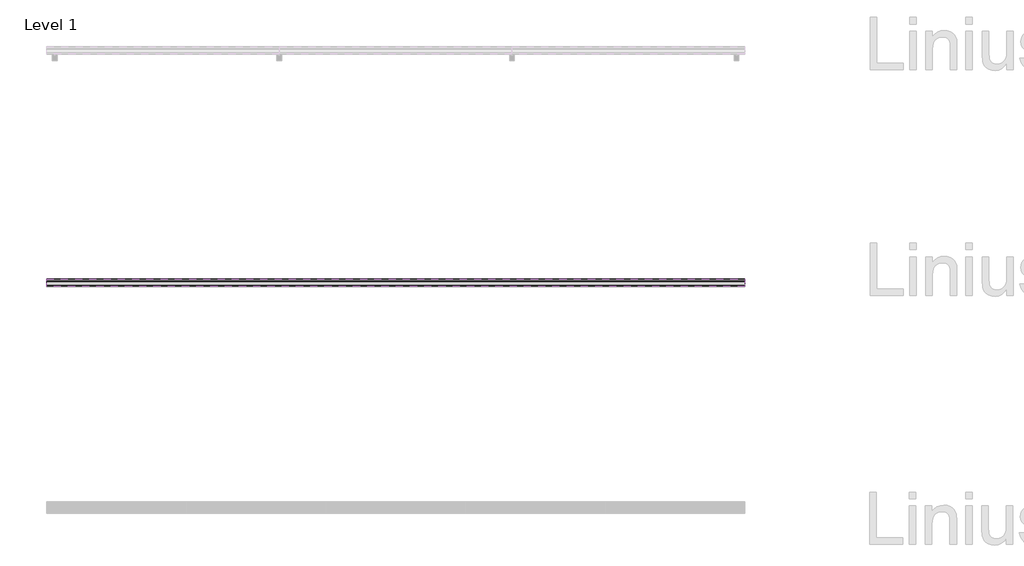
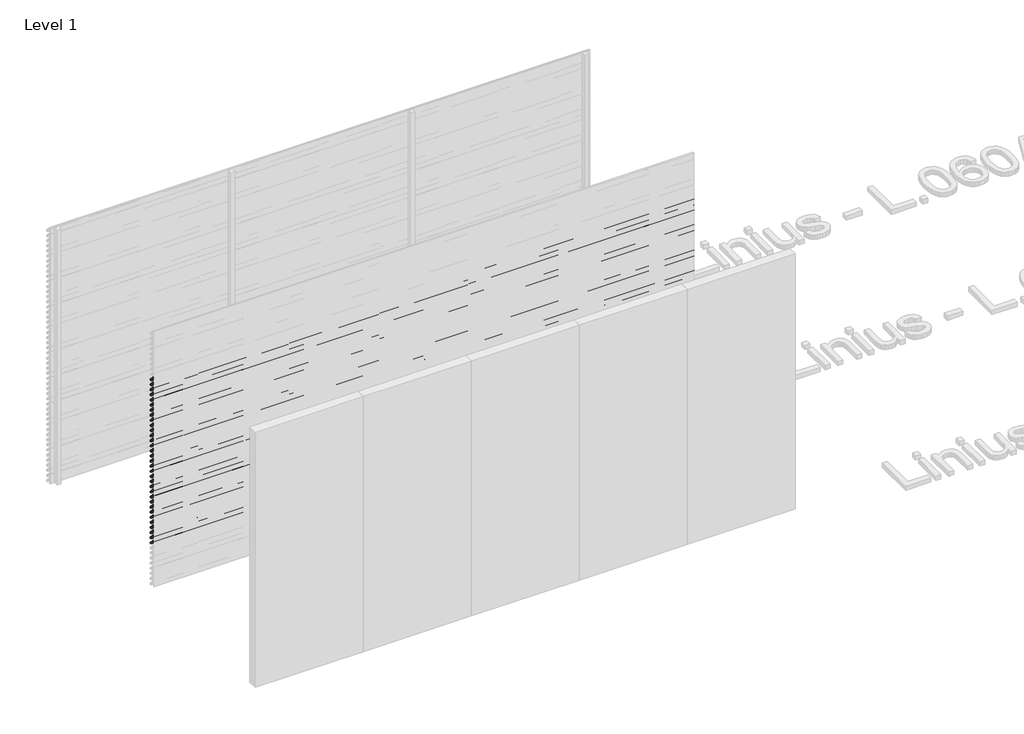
# One storey, part 90 of 153: 33 proxies.
"""IFC4 building model written with IfcOpenShell, lengths in millimetres."""

from ifc_helpers import new_model, si_unit, point, frame, frame_2d, origin, place, context, project, spatial, polyline, circle_curve, trimmed, segment, composite_curve, outline, extrude, element, save

model = new_model("IFC4")

# Units and contexts
model_context = context("Model", 3, world=origin())
ifc_project = project(units=[si_unit("LENGTHUNIT", "METRE", prefix="MILLI")], contexts=[model_context])

# Site, building, storey
site = spatial("IfcSite", under=ifc_project)
building = spatial("IfcBuilding", under=site)
storey = spatial("IfcBuildingStorey", under=building, Name="Level 1", Elevation=0.0)

# Proxies
placement = place(None, origin())
element("IfcBuildingElementProxy", 1, Name="Wall Sweeps", at=placement, inside=storey, context=model_context, shape_type="SweptSolid", body=[
    extrude(outline(composite_curve([segment(polyline([(34485.0540136, 2460.0), (34499.874191, 2458.7034025), (34549.0540136, 2405.0102749), (34549.0540136, 2393.6108187)]), True, "CONTINUOUS"), segment(trimmed(circle_curve(frame_2d((34545.7883652, 2393.897153)), 3.2781774), [point((34549.0540136, 2393.6108187))], [point((34546.4639442, 2390.6893438))], False, "CARTESIAN"), True, "CONTINUOUS"), segment(polyline([(34546.4639442, 2390.6893438), (34534.1895723, 2391.6282758), (34485.0540136, 2445.2730773), (34485.0540136, 2460.0)]), True, "CONTINUOUS")], self_intersect=False), holes=[composite_curve([segment(polyline([(34499.1621773, 2457.2599659), (34486.5540136, 2458.3630372), (34486.5540136, 2445.856213), (34534.8952036, 2393.0786805), (34546.3312542, 2392.2038762)]), True, "CONTINUOUS"), segment(trimmed(circle_curve(frame_2d((34545.7883652, 2393.897153)), 1.7781774), [point((34546.3312542, 2392.2038762))], [point((34547.5540136, 2393.6864389))], True, "CARTESIAN"), True, "CONTINUOUS"), segment(polyline([(34547.5540136, 2393.6864389), (34547.5540136, 2404.4271392), (34499.1621773, 2457.2599659)]), True, "CONTINUOUS")], self_intersect=False)]), frame((44966.6208097, 0.0, 0.0), z_axis=(1.0, 0.0, 0.0), x_axis=(0.0, 1.0, 0.0)), (0.0, 0.0, 1.0), 6000.0),
])
element("IfcBuildingElementProxy", 2, Name="Wall Sweeps", at=placement, inside=storey, context=model_context, shape_type="SweptSolid", body=[
    extrude(outline(composite_curve([segment(polyline([(34485.0540136, 2400.0), (34499.874191, 2398.7034025), (34549.0540136, 2345.0102749), (34549.0540136, 2333.6108187)]), True, "CONTINUOUS"), segment(trimmed(circle_curve(frame_2d((34545.7883652, 2333.897153)), 3.2781774), [point((34549.0540136, 2333.6108187))], [point((34546.4639442, 2330.6893438))], False, "CARTESIAN"), True, "CONTINUOUS"), segment(polyline([(34546.4639442, 2330.6893438), (34534.1895723, 2331.6282758), (34485.0540136, 2385.2730773), (34485.0540136, 2400.0)]), True, "CONTINUOUS")], self_intersect=False), holes=[composite_curve([segment(polyline([(34499.1621773, 2397.2599659), (34486.5540136, 2398.3630372), (34486.5540136, 2385.856213), (34534.8952036, 2333.0786805), (34546.3312542, 2332.2038762)]), True, "CONTINUOUS"), segment(trimmed(circle_curve(frame_2d((34545.7883652, 2333.897153)), 1.7781774), [point((34546.3312542, 2332.2038762))], [point((34547.5540136, 2333.6864389))], True, "CARTESIAN"), True, "CONTINUOUS"), segment(polyline([(34547.5540136, 2333.6864389), (34547.5540136, 2344.4271392), (34499.1621773, 2397.2599659)]), True, "CONTINUOUS")], self_intersect=False)]), frame((44966.6208097, 0.0, 0.0), z_axis=(1.0, 0.0, 0.0), x_axis=(0.0, 1.0, 0.0)), (0.0, 0.0, 1.0), 6000.0),
])
element("IfcBuildingElementProxy", 3, Name="Wall Sweeps", at=placement, inside=storey, context=model_context, shape_type="SweptSolid", body=[
    extrude(outline(composite_curve([segment(polyline([(34485.0540136, 2340.0), (34499.874191, 2338.7034025), (34549.0540136, 2285.0102749), (34549.0540136, 2273.6108187)]), True, "CONTINUOUS"), segment(trimmed(circle_curve(frame_2d((34545.7883652, 2273.897153)), 3.2781774), [point((34549.0540136, 2273.6108187))], [point((34546.4639442, 2270.6893438))], False, "CARTESIAN"), True, "CONTINUOUS"), segment(polyline([(34546.4639442, 2270.6893438), (34534.1895723, 2271.6282758), (34485.0540136, 2325.2730773), (34485.0540136, 2340.0)]), True, "CONTINUOUS")], self_intersect=False), holes=[composite_curve([segment(polyline([(34499.1621773, 2337.2599659), (34486.5540136, 2338.3630372), (34486.5540136, 2325.856213), (34534.8952036, 2273.0786805), (34546.3312542, 2272.2038762)]), True, "CONTINUOUS"), segment(trimmed(circle_curve(frame_2d((34545.7883652, 2273.897153)), 1.7781774), [point((34546.3312542, 2272.2038762))], [point((34547.5540136, 2273.6864389))], True, "CARTESIAN"), True, "CONTINUOUS"), segment(polyline([(34547.5540136, 2273.6864389), (34547.5540136, 2284.4271392), (34499.1621773, 2337.2599659)]), True, "CONTINUOUS")], self_intersect=False)]), frame((44966.6208097, 0.0, 0.0), z_axis=(1.0, 0.0, 0.0), x_axis=(0.0, 1.0, 0.0)), (0.0, 0.0, 1.0), 6000.0),
])
element("IfcBuildingElementProxy", 4, Name="Wall Sweeps", at=placement, inside=storey, context=model_context, shape_type="SweptSolid", body=[
    extrude(outline(composite_curve([segment(polyline([(34485.0540136, 2280.0), (34499.874191, 2278.7034025), (34549.0540136, 2225.0102749), (34549.0540136, 2213.6108187)]), True, "CONTINUOUS"), segment(trimmed(circle_curve(frame_2d((34545.7883652, 2213.897153)), 3.2781774), [point((34549.0540136, 2213.6108187))], [point((34546.4639442, 2210.6893438))], False, "CARTESIAN"), True, "CONTINUOUS"), segment(polyline([(34546.4639442, 2210.6893438), (34534.1895723, 2211.6282758), (34485.0540136, 2265.2730773), (34485.0540136, 2280.0)]), True, "CONTINUOUS")], self_intersect=False), holes=[composite_curve([segment(polyline([(34499.1621773, 2277.2599659), (34486.5540136, 2278.3630372), (34486.5540136, 2265.856213), (34534.8952036, 2213.0786805), (34546.3312542, 2212.2038762)]), True, "CONTINUOUS"), segment(trimmed(circle_curve(frame_2d((34545.7883652, 2213.897153)), 1.7781774), [point((34546.3312542, 2212.2038762))], [point((34547.5540136, 2213.6864389))], True, "CARTESIAN"), True, "CONTINUOUS"), segment(polyline([(34547.5540136, 2213.6864389), (34547.5540136, 2224.4271392), (34499.1621773, 2277.2599659)]), True, "CONTINUOUS")], self_intersect=False)]), frame((44966.6208097, 0.0, 0.0), z_axis=(1.0, 0.0, 0.0), x_axis=(0.0, 1.0, 0.0)), (0.0, 0.0, 1.0), 6000.0),
])
element("IfcBuildingElementProxy", 5, Name="Wall Sweeps", at=placement, inside=storey, context=model_context, shape_type="SweptSolid", body=[
    extrude(outline(composite_curve([segment(polyline([(34485.0540136, 2220.0), (34499.874191, 2218.7034025), (34549.0540136, 2165.0102749), (34549.0540136, 2153.6108187)]), True, "CONTINUOUS"), segment(trimmed(circle_curve(frame_2d((34545.7883652, 2153.897153)), 3.2781774), [point((34549.0540136, 2153.6108187))], [point((34546.4639442, 2150.6893438))], False, "CARTESIAN"), True, "CONTINUOUS"), segment(polyline([(34546.4639442, 2150.6893438), (34534.1895723, 2151.6282758), (34485.0540136, 2205.2730773), (34485.0540136, 2220.0)]), True, "CONTINUOUS")], self_intersect=False), holes=[composite_curve([segment(polyline([(34499.1621773, 2217.2599659), (34486.5540136, 2218.3630372), (34486.5540136, 2205.856213), (34534.8952036, 2153.0786805), (34546.3312542, 2152.2038762)]), True, "CONTINUOUS"), segment(trimmed(circle_curve(frame_2d((34545.7883652, 2153.897153)), 1.7781774), [point((34546.3312542, 2152.2038762))], [point((34547.5540136, 2153.6864389))], True, "CARTESIAN"), True, "CONTINUOUS"), segment(polyline([(34547.5540136, 2153.6864389), (34547.5540136, 2164.4271392), (34499.1621773, 2217.2599659)]), True, "CONTINUOUS")], self_intersect=False)]), frame((44966.6208097, 0.0, 0.0), z_axis=(1.0, 0.0, 0.0), x_axis=(0.0, 1.0, 0.0)), (0.0, 0.0, 1.0), 6000.0),
])
element("IfcBuildingElementProxy", 6, Name="Wall Sweeps", at=placement, inside=storey, context=model_context, shape_type="SweptSolid", body=[
    extrude(outline(composite_curve([segment(polyline([(34485.0540136, 2160.0), (34499.874191, 2158.7034025), (34549.0540136, 2105.0102749), (34549.0540136, 2093.6108187)]), True, "CONTINUOUS"), segment(trimmed(circle_curve(frame_2d((34545.7883652, 2093.897153)), 3.2781774), [point((34549.0540136, 2093.6108187))], [point((34546.4639442, 2090.6893438))], False, "CARTESIAN"), True, "CONTINUOUS"), segment(polyline([(34546.4639442, 2090.6893438), (34534.1895723, 2091.6282758), (34485.0540136, 2145.2730773), (34485.0540136, 2160.0)]), True, "CONTINUOUS")], self_intersect=False), holes=[composite_curve([segment(polyline([(34499.1621773, 2157.2599659), (34486.5540136, 2158.3630372), (34486.5540136, 2145.856213), (34534.8952036, 2093.0786805), (34546.3312542, 2092.2038762)]), True, "CONTINUOUS"), segment(trimmed(circle_curve(frame_2d((34545.7883652, 2093.897153)), 1.7781774), [point((34546.3312542, 2092.2038762))], [point((34547.5540136, 2093.6864389))], True, "CARTESIAN"), True, "CONTINUOUS"), segment(polyline([(34547.5540136, 2093.6864389), (34547.5540136, 2104.4271392), (34499.1621773, 2157.2599659)]), True, "CONTINUOUS")], self_intersect=False)]), frame((44966.6208097, 0.0, 0.0), z_axis=(1.0, 0.0, 0.0), x_axis=(0.0, 1.0, 0.0)), (0.0, 0.0, 1.0), 6000.0),
])
element("IfcBuildingElementProxy", 7, Name="Wall Sweeps", at=placement, inside=storey, context=model_context, shape_type="SweptSolid", body=[
    extrude(outline(composite_curve([segment(polyline([(34485.0540136, 2100.0), (34499.874191, 2098.7034025), (34549.0540136, 2045.0102749), (34549.0540136, 2033.6108187)]), True, "CONTINUOUS"), segment(trimmed(circle_curve(frame_2d((34545.7883652, 2033.897153)), 3.2781774), [point((34549.0540136, 2033.6108187))], [point((34546.4639442, 2030.6893438))], False, "CARTESIAN"), True, "CONTINUOUS"), segment(polyline([(34546.4639442, 2030.6893438), (34534.1895723, 2031.6282758), (34485.0540136, 2085.2730773), (34485.0540136, 2100.0)]), True, "CONTINUOUS")], self_intersect=False), holes=[composite_curve([segment(polyline([(34499.1621773, 2097.2599659), (34486.5540136, 2098.3630372), (34486.5540136, 2085.856213), (34534.8952036, 2033.0786805), (34546.3312542, 2032.2038762)]), True, "CONTINUOUS"), segment(trimmed(circle_curve(frame_2d((34545.7883652, 2033.897153)), 1.7781774), [point((34546.3312542, 2032.2038762))], [point((34547.5540136, 2033.6864389))], True, "CARTESIAN"), True, "CONTINUOUS"), segment(polyline([(34547.5540136, 2033.6864389), (34547.5540136, 2044.4271392), (34499.1621773, 2097.2599659)]), True, "CONTINUOUS")], self_intersect=False)]), frame((44966.6208097, 0.0, 0.0), z_axis=(1.0, 0.0, 0.0), x_axis=(0.0, 1.0, 0.0)), (0.0, 0.0, 1.0), 6000.0),
])
element("IfcBuildingElementProxy", 8, Name="Wall Sweeps", at=placement, inside=storey, context=model_context, shape_type="SweptSolid", body=[
    extrude(outline(composite_curve([segment(polyline([(34485.0540136, 2040.0), (34499.874191, 2038.7034025), (34549.0540136, 1985.0102749), (34549.0540136, 1973.6108187)]), True, "CONTINUOUS"), segment(trimmed(circle_curve(frame_2d((34545.7883652, 1973.897153)), 3.2781774), [point((34549.0540136, 1973.6108187))], [point((34546.4639442, 1970.6893438))], False, "CARTESIAN"), True, "CONTINUOUS"), segment(polyline([(34546.4639442, 1970.6893438), (34534.1895723, 1971.6282758), (34485.0540136, 2025.2730773), (34485.0540136, 2040.0)]), True, "CONTINUOUS")], self_intersect=False), holes=[composite_curve([segment(polyline([(34499.1621773, 2037.2599659), (34486.5540136, 2038.3630372), (34486.5540136, 2025.856213), (34534.8952036, 1973.0786805), (34546.3312542, 1972.2038762)]), True, "CONTINUOUS"), segment(trimmed(circle_curve(frame_2d((34545.7883652, 1973.897153)), 1.7781774), [point((34546.3312542, 1972.2038762))], [point((34547.5540136, 1973.6864389))], True, "CARTESIAN"), True, "CONTINUOUS"), segment(polyline([(34547.5540136, 1973.6864389), (34547.5540136, 1984.4271392), (34499.1621773, 2037.2599659)]), True, "CONTINUOUS")], self_intersect=False)]), frame((44966.6208097, 0.0, 0.0), z_axis=(1.0, 0.0, 0.0), x_axis=(0.0, 1.0, 0.0)), (0.0, 0.0, 1.0), 6000.0),
])
element("IfcBuildingElementProxy", 9, Name="Wall Sweeps", at=placement, inside=storey, context=model_context, shape_type="SweptSolid", body=[
    extrude(outline(composite_curve([segment(polyline([(34485.0540136, 1980.0), (34499.874191, 1978.7034025), (34549.0540136, 1925.0102749), (34549.0540136, 1913.6108187)]), True, "CONTINUOUS"), segment(trimmed(circle_curve(frame_2d((34545.7883652, 1913.897153)), 3.2781774), [point((34549.0540136, 1913.6108187))], [point((34546.4639442, 1910.6893438))], False, "CARTESIAN"), True, "CONTINUOUS"), segment(polyline([(34546.4639442, 1910.6893438), (34534.1895723, 1911.6282758), (34485.0540136, 1965.2730773), (34485.0540136, 1980.0)]), True, "CONTINUOUS")], self_intersect=False), holes=[composite_curve([segment(polyline([(34499.1621773, 1977.2599659), (34486.5540136, 1978.3630372), (34486.5540136, 1965.856213), (34534.8952036, 1913.0786805), (34546.3312542, 1912.2038762)]), True, "CONTINUOUS"), segment(trimmed(circle_curve(frame_2d((34545.7883652, 1913.897153)), 1.7781774), [point((34546.3312542, 1912.2038762))], [point((34547.5540136, 1913.6864389))], True, "CARTESIAN"), True, "CONTINUOUS"), segment(polyline([(34547.5540136, 1913.6864389), (34547.5540136, 1924.4271392), (34499.1621773, 1977.2599659)]), True, "CONTINUOUS")], self_intersect=False)]), frame((44966.6208097, 0.0, 0.0), z_axis=(1.0, 0.0, 0.0), x_axis=(0.0, 1.0, 0.0)), (0.0, 0.0, 1.0), 6000.0),
])
element("IfcBuildingElementProxy", 10, Name="Wall Sweeps", at=placement, inside=storey, context=model_context, shape_type="SweptSolid", body=[
    extrude(outline(composite_curve([segment(polyline([(34485.0540136, 1920.0), (34499.874191, 1918.7034025), (34549.0540136, 1865.0102749), (34549.0540136, 1853.6108187)]), True, "CONTINUOUS"), segment(trimmed(circle_curve(frame_2d((34545.7883652, 1853.897153)), 3.2781774), [point((34549.0540136, 1853.6108187))], [point((34546.4639442, 1850.6893438))], False, "CARTESIAN"), True, "CONTINUOUS"), segment(polyline([(34546.4639442, 1850.6893438), (34534.1895723, 1851.6282758), (34485.0540136, 1905.2730773), (34485.0540136, 1920.0)]), True, "CONTINUOUS")], self_intersect=False), holes=[composite_curve([segment(polyline([(34499.1621773, 1917.2599659), (34486.5540136, 1918.3630372), (34486.5540136, 1905.856213), (34534.8952036, 1853.0786805), (34546.3312542, 1852.2038762)]), True, "CONTINUOUS"), segment(trimmed(circle_curve(frame_2d((34545.7883652, 1853.897153)), 1.7781774), [point((34546.3312542, 1852.2038762))], [point((34547.5540136, 1853.6864389))], True, "CARTESIAN"), True, "CONTINUOUS"), segment(polyline([(34547.5540136, 1853.6864389), (34547.5540136, 1864.4271392), (34499.1621773, 1917.2599659)]), True, "CONTINUOUS")], self_intersect=False)]), frame((44966.6208097, 0.0, 0.0), z_axis=(1.0, 0.0, 0.0), x_axis=(0.0, 1.0, 0.0)), (0.0, 0.0, 1.0), 6000.0),
])
element("IfcBuildingElementProxy", 11, Name="Wall Sweeps", at=placement, inside=storey, context=model_context, shape_type="SweptSolid", body=[
    extrude(outline(composite_curve([segment(polyline([(34485.0540136, 1860.0), (34499.874191, 1858.7034025), (34549.0540136, 1805.0102749), (34549.0540136, 1793.6108187)]), True, "CONTINUOUS"), segment(trimmed(circle_curve(frame_2d((34545.7883652, 1793.897153)), 3.2781774), [point((34549.0540136, 1793.6108187))], [point((34546.4639442, 1790.6893438))], False, "CARTESIAN"), True, "CONTINUOUS"), segment(polyline([(34546.4639442, 1790.6893438), (34534.1895723, 1791.6282758), (34485.0540136, 1845.2730773), (34485.0540136, 1860.0)]), True, "CONTINUOUS")], self_intersect=False), holes=[composite_curve([segment(polyline([(34499.1621773, 1857.2599659), (34486.5540136, 1858.3630372), (34486.5540136, 1845.856213), (34534.8952036, 1793.0786805), (34546.3312542, 1792.2038762)]), True, "CONTINUOUS"), segment(trimmed(circle_curve(frame_2d((34545.7883652, 1793.897153)), 1.7781774), [point((34546.3312542, 1792.2038762))], [point((34547.5540136, 1793.6864389))], True, "CARTESIAN"), True, "CONTINUOUS"), segment(polyline([(34547.5540136, 1793.6864389), (34547.5540136, 1804.4271392), (34499.1621773, 1857.2599659)]), True, "CONTINUOUS")], self_intersect=False)]), frame((44966.6208097, 0.0, 0.0), z_axis=(1.0, 0.0, 0.0), x_axis=(0.0, 1.0, 0.0)), (0.0, 0.0, 1.0), 6000.0),
])
element("IfcBuildingElementProxy", 12, Name="Wall Sweeps", at=placement, inside=storey, context=model_context, shape_type="SweptSolid", body=[
    extrude(outline(composite_curve([segment(polyline([(34485.0540136, 1800.0), (34499.874191, 1798.7034025), (34549.0540136, 1745.0102749), (34549.0540136, 1733.6108187)]), True, "CONTINUOUS"), segment(trimmed(circle_curve(frame_2d((34545.7883652, 1733.897153)), 3.2781774), [point((34549.0540136, 1733.6108187))], [point((34546.4639442, 1730.6893438))], False, "CARTESIAN"), True, "CONTINUOUS"), segment(polyline([(34546.4639442, 1730.6893438), (34534.1895723, 1731.6282758), (34485.0540136, 1785.2730773), (34485.0540136, 1800.0)]), True, "CONTINUOUS")], self_intersect=False), holes=[composite_curve([segment(polyline([(34499.1621773, 1797.2599659), (34486.5540136, 1798.3630372), (34486.5540136, 1785.856213), (34534.8952036, 1733.0786805), (34546.3312542, 1732.2038762)]), True, "CONTINUOUS"), segment(trimmed(circle_curve(frame_2d((34545.7883652, 1733.897153)), 1.7781774), [point((34546.3312542, 1732.2038762))], [point((34547.5540136, 1733.6864389))], True, "CARTESIAN"), True, "CONTINUOUS"), segment(polyline([(34547.5540136, 1733.6864389), (34547.5540136, 1744.4271392), (34499.1621773, 1797.2599659)]), True, "CONTINUOUS")], self_intersect=False)]), frame((44966.6208097, 0.0, 0.0), z_axis=(1.0, 0.0, 0.0), x_axis=(0.0, 1.0, 0.0)), (0.0, 0.0, 1.0), 6000.0),
])
element("IfcBuildingElementProxy", 13, Name="Wall Sweeps", at=placement, inside=storey, context=model_context, shape_type="SweptSolid", body=[
    extrude(outline(composite_curve([segment(polyline([(34485.0540136, 1740.0), (34499.874191, 1738.7034025), (34549.0540136, 1685.0102749), (34549.0540136, 1673.6108187)]), True, "CONTINUOUS"), segment(trimmed(circle_curve(frame_2d((34545.7883652, 1673.897153)), 3.2781774), [point((34549.0540136, 1673.6108187))], [point((34546.4639442, 1670.6893438))], False, "CARTESIAN"), True, "CONTINUOUS"), segment(polyline([(34546.4639442, 1670.6893438), (34534.1895723, 1671.6282758), (34485.0540136, 1725.2730773), (34485.0540136, 1740.0)]), True, "CONTINUOUS")], self_intersect=False), holes=[composite_curve([segment(polyline([(34499.1621773, 1737.2599659), (34486.5540136, 1738.3630372), (34486.5540136, 1725.856213), (34534.8952036, 1673.0786805), (34546.3312542, 1672.2038762)]), True, "CONTINUOUS"), segment(trimmed(circle_curve(frame_2d((34545.7883652, 1673.897153)), 1.7781774), [point((34546.3312542, 1672.2038762))], [point((34547.5540136, 1673.6864389))], True, "CARTESIAN"), True, "CONTINUOUS"), segment(polyline([(34547.5540136, 1673.6864389), (34547.5540136, 1684.4271392), (34499.1621773, 1737.2599659)]), True, "CONTINUOUS")], self_intersect=False)]), frame((44966.6208097, 0.0, 0.0), z_axis=(1.0, 0.0, 0.0), x_axis=(0.0, 1.0, 0.0)), (0.0, 0.0, 1.0), 6000.0),
])
element("IfcBuildingElementProxy", 14, Name="Wall Sweeps", at=placement, inside=storey, context=model_context, shape_type="SweptSolid", body=[
    extrude(outline(composite_curve([segment(polyline([(34485.0540136, 1680.0), (34499.874191, 1678.7034025), (34549.0540136, 1625.0102749), (34549.0540136, 1613.6108187)]), True, "CONTINUOUS"), segment(trimmed(circle_curve(frame_2d((34545.7883652, 1613.897153)), 3.2781774), [point((34549.0540136, 1613.6108187))], [point((34546.4639442, 1610.6893438))], False, "CARTESIAN"), True, "CONTINUOUS"), segment(polyline([(34546.4639442, 1610.6893438), (34534.1895723, 1611.6282758), (34485.0540136, 1665.2730773), (34485.0540136, 1680.0)]), True, "CONTINUOUS")], self_intersect=False), holes=[composite_curve([segment(polyline([(34499.1621773, 1677.2599659), (34486.5540136, 1678.3630372), (34486.5540136, 1665.856213), (34534.8952036, 1613.0786805), (34546.3312542, 1612.2038762)]), True, "CONTINUOUS"), segment(trimmed(circle_curve(frame_2d((34545.7883652, 1613.897153)), 1.7781774), [point((34546.3312542, 1612.2038762))], [point((34547.5540136, 1613.6864389))], True, "CARTESIAN"), True, "CONTINUOUS"), segment(polyline([(34547.5540136, 1613.6864389), (34547.5540136, 1624.4271392), (34499.1621773, 1677.2599659)]), True, "CONTINUOUS")], self_intersect=False)]), frame((44966.6208097, 0.0, 0.0), z_axis=(1.0, 0.0, 0.0), x_axis=(0.0, 1.0, 0.0)), (0.0, 0.0, 1.0), 6000.0),
])
element("IfcBuildingElementProxy", 15, Name="Wall Sweeps", at=placement, inside=storey, context=model_context, shape_type="SweptSolid", body=[
    extrude(outline(composite_curve([segment(polyline([(34485.0540136, 1620.0), (34499.874191, 1618.7034025), (34549.0540136, 1565.0102749), (34549.0540136, 1553.6108187)]), True, "CONTINUOUS"), segment(trimmed(circle_curve(frame_2d((34545.7883652, 1553.897153)), 3.2781774), [point((34549.0540136, 1553.6108187))], [point((34546.4639442, 1550.6893438))], False, "CARTESIAN"), True, "CONTINUOUS"), segment(polyline([(34546.4639442, 1550.6893438), (34534.1895723, 1551.6282758), (34485.0540136, 1605.2730773), (34485.0540136, 1620.0)]), True, "CONTINUOUS")], self_intersect=False), holes=[composite_curve([segment(polyline([(34499.1621773, 1617.2599659), (34486.5540136, 1618.3630372), (34486.5540136, 1605.856213), (34534.8952036, 1553.0786805), (34546.3312542, 1552.2038762)]), True, "CONTINUOUS"), segment(trimmed(circle_curve(frame_2d((34545.7883652, 1553.897153)), 1.7781774), [point((34546.3312542, 1552.2038762))], [point((34547.5540136, 1553.6864389))], True, "CARTESIAN"), True, "CONTINUOUS"), segment(polyline([(34547.5540136, 1553.6864389), (34547.5540136, 1564.4271392), (34499.1621773, 1617.2599659)]), True, "CONTINUOUS")], self_intersect=False)]), frame((44966.6208097, 0.0, 0.0), z_axis=(1.0, 0.0, 0.0), x_axis=(0.0, 1.0, 0.0)), (0.0, 0.0, 1.0), 6000.0),
])
element("IfcBuildingElementProxy", 16, Name="Wall Sweeps", at=placement, inside=storey, context=model_context, shape_type="SweptSolid", body=[
    extrude(outline(composite_curve([segment(polyline([(34485.0540136, 1560.0), (34499.874191, 1558.7034025), (34549.0540136, 1505.0102749), (34549.0540136, 1493.6108187)]), True, "CONTINUOUS"), segment(trimmed(circle_curve(frame_2d((34545.7883652, 1493.897153)), 3.2781774), [point((34549.0540136, 1493.6108187))], [point((34546.4639442, 1490.6893438))], False, "CARTESIAN"), True, "CONTINUOUS"), segment(polyline([(34546.4639442, 1490.6893438), (34534.1895723, 1491.6282758), (34485.0540136, 1545.2730773), (34485.0540136, 1560.0)]), True, "CONTINUOUS")], self_intersect=False), holes=[composite_curve([segment(polyline([(34499.1621773, 1557.2599659), (34486.5540136, 1558.3630372), (34486.5540136, 1545.856213), (34534.8952036, 1493.0786805), (34546.3312542, 1492.2038762)]), True, "CONTINUOUS"), segment(trimmed(circle_curve(frame_2d((34545.7883652, 1493.897153)), 1.7781774), [point((34546.3312542, 1492.2038762))], [point((34547.5540136, 1493.6864389))], True, "CARTESIAN"), True, "CONTINUOUS"), segment(polyline([(34547.5540136, 1493.6864389), (34547.5540136, 1504.4271392), (34499.1621773, 1557.2599659)]), True, "CONTINUOUS")], self_intersect=False)]), frame((44966.6208097, 0.0, 0.0), z_axis=(1.0, 0.0, 0.0), x_axis=(0.0, 1.0, 0.0)), (0.0, 0.0, 1.0), 6000.0),
])
element("IfcBuildingElementProxy", 17, Name="Wall Sweeps", at=placement, inside=storey, context=model_context, shape_type="SweptSolid", body=[
    extrude(outline(composite_curve([segment(polyline([(34485.0540136, 1500.0), (34499.874191, 1498.7034025), (34549.0540136, 1445.0102749), (34549.0540136, 1433.6108187)]), True, "CONTINUOUS"), segment(trimmed(circle_curve(frame_2d((34545.7883652, 1433.897153)), 3.2781774), [point((34549.0540136, 1433.6108187))], [point((34546.4639442, 1430.6893438))], False, "CARTESIAN"), True, "CONTINUOUS"), segment(polyline([(34546.4639442, 1430.6893438), (34534.1895723, 1431.6282758), (34485.0540136, 1485.2730773), (34485.0540136, 1500.0)]), True, "CONTINUOUS")], self_intersect=False), holes=[composite_curve([segment(polyline([(34499.1621773, 1497.2599659), (34486.5540136, 1498.3630372), (34486.5540136, 1485.856213), (34534.8952036, 1433.0786805), (34546.3312542, 1432.2038762)]), True, "CONTINUOUS"), segment(trimmed(circle_curve(frame_2d((34545.7883652, 1433.897153)), 1.7781774), [point((34546.3312542, 1432.2038762))], [point((34547.5540136, 1433.6864389))], True, "CARTESIAN"), True, "CONTINUOUS"), segment(polyline([(34547.5540136, 1433.6864389), (34547.5540136, 1444.4271392), (34499.1621773, 1497.2599659)]), True, "CONTINUOUS")], self_intersect=False)]), frame((44966.6208097, 0.0, 0.0), z_axis=(1.0, 0.0, 0.0), x_axis=(0.0, 1.0, 0.0)), (0.0, 0.0, 1.0), 6000.0),
])
element("IfcBuildingElementProxy", 18, Name="Wall Sweeps", at=placement, inside=storey, context=model_context, shape_type="SweptSolid", body=[
    extrude(outline(composite_curve([segment(polyline([(34485.0540136, 1440.0), (34499.874191, 1438.7034025), (34549.0540136, 1385.0102749), (34549.0540136, 1373.6108187)]), True, "CONTINUOUS"), segment(trimmed(circle_curve(frame_2d((34545.7883652, 1373.897153)), 3.2781774), [point((34549.0540136, 1373.6108187))], [point((34546.4639442, 1370.6893438))], False, "CARTESIAN"), True, "CONTINUOUS"), segment(polyline([(34546.4639442, 1370.6893438), (34534.1895723, 1371.6282758), (34485.0540136, 1425.2730773), (34485.0540136, 1440.0)]), True, "CONTINUOUS")], self_intersect=False), holes=[composite_curve([segment(polyline([(34499.1621773, 1437.2599659), (34486.5540136, 1438.3630372), (34486.5540136, 1425.856213), (34534.8952036, 1373.0786805), (34546.3312542, 1372.2038762)]), True, "CONTINUOUS"), segment(trimmed(circle_curve(frame_2d((34545.7883652, 1373.897153)), 1.7781774), [point((34546.3312542, 1372.2038762))], [point((34547.5540136, 1373.6864389))], True, "CARTESIAN"), True, "CONTINUOUS"), segment(polyline([(34547.5540136, 1373.6864389), (34547.5540136, 1384.4271392), (34499.1621773, 1437.2599659)]), True, "CONTINUOUS")], self_intersect=False)]), frame((44966.6208097, 0.0, 0.0), z_axis=(1.0, 0.0, 0.0), x_axis=(0.0, 1.0, 0.0)), (0.0, 0.0, 1.0), 6000.0),
])
element("IfcBuildingElementProxy", 19, Name="Wall Sweeps", at=placement, inside=storey, context=model_context, shape_type="SweptSolid", body=[
    extrude(outline(composite_curve([segment(polyline([(34485.0540136, 1380.0), (34499.874191, 1378.7034025), (34549.0540136, 1325.0102749), (34549.0540136, 1313.6108187)]), True, "CONTINUOUS"), segment(trimmed(circle_curve(frame_2d((34545.7883652, 1313.897153)), 3.2781774), [point((34549.0540136, 1313.6108187))], [point((34546.4639442, 1310.6893438))], False, "CARTESIAN"), True, "CONTINUOUS"), segment(polyline([(34546.4639442, 1310.6893438), (34534.1895723, 1311.6282758), (34485.0540136, 1365.2730773), (34485.0540136, 1380.0)]), True, "CONTINUOUS")], self_intersect=False), holes=[composite_curve([segment(polyline([(34499.1621773, 1377.2599659), (34486.5540136, 1378.3630372), (34486.5540136, 1365.856213), (34534.8952036, 1313.0786805), (34546.3312542, 1312.2038762)]), True, "CONTINUOUS"), segment(trimmed(circle_curve(frame_2d((34545.7883652, 1313.897153)), 1.7781774), [point((34546.3312542, 1312.2038762))], [point((34547.5540136, 1313.6864389))], True, "CARTESIAN"), True, "CONTINUOUS"), segment(polyline([(34547.5540136, 1313.6864389), (34547.5540136, 1324.4271392), (34499.1621773, 1377.2599659)]), True, "CONTINUOUS")], self_intersect=False)]), frame((44966.6208097, 0.0, 0.0), z_axis=(1.0, 0.0, 0.0), x_axis=(0.0, 1.0, 0.0)), (0.0, 0.0, 1.0), 6000.0),
])
element("IfcBuildingElementProxy", 20, Name="Wall Sweeps", at=placement, inside=storey, context=model_context, shape_type="SweptSolid", body=[
    extrude(outline(composite_curve([segment(polyline([(34485.0540136, 1320.0), (34499.874191, 1318.7034025), (34549.0540136, 1265.0102749), (34549.0540136, 1253.6108187)]), True, "CONTINUOUS"), segment(trimmed(circle_curve(frame_2d((34545.7883652, 1253.897153)), 3.2781774), [point((34549.0540136, 1253.6108187))], [point((34546.4639442, 1250.6893438))], False, "CARTESIAN"), True, "CONTINUOUS"), segment(polyline([(34546.4639442, 1250.6893438), (34534.1895723, 1251.6282758), (34485.0540136, 1305.2730773), (34485.0540136, 1320.0)]), True, "CONTINUOUS")], self_intersect=False), holes=[composite_curve([segment(polyline([(34499.1621773, 1317.2599659), (34486.5540136, 1318.3630372), (34486.5540136, 1305.856213), (34534.8952036, 1253.0786805), (34546.3312542, 1252.2038762)]), True, "CONTINUOUS"), segment(trimmed(circle_curve(frame_2d((34545.7883652, 1253.897153)), 1.7781774), [point((34546.3312542, 1252.2038762))], [point((34547.5540136, 1253.6864389))], True, "CARTESIAN"), True, "CONTINUOUS"), segment(polyline([(34547.5540136, 1253.6864389), (34547.5540136, 1264.4271392), (34499.1621773, 1317.2599659)]), True, "CONTINUOUS")], self_intersect=False)]), frame((44966.6208097, 0.0, 0.0), z_axis=(1.0, 0.0, 0.0), x_axis=(0.0, 1.0, 0.0)), (0.0, 0.0, 1.0), 6000.0),
])
element("IfcBuildingElementProxy", 21, Name="Wall Sweeps", at=placement, inside=storey, context=model_context, shape_type="SweptSolid", body=[
    extrude(outline(composite_curve([segment(polyline([(34485.0540136, 1260.0), (34499.874191, 1258.7034025), (34549.0540136, 1205.0102749), (34549.0540136, 1193.6108187)]), True, "CONTINUOUS"), segment(trimmed(circle_curve(frame_2d((34545.7883652, 1193.897153)), 3.2781774), [point((34549.0540136, 1193.6108187))], [point((34546.4639442, 1190.6893438))], False, "CARTESIAN"), True, "CONTINUOUS"), segment(polyline([(34546.4639442, 1190.6893438), (34534.1895723, 1191.6282758), (34485.0540136, 1245.2730773), (34485.0540136, 1260.0)]), True, "CONTINUOUS")], self_intersect=False), holes=[composite_curve([segment(polyline([(34499.1621773, 1257.2599659), (34486.5540136, 1258.3630372), (34486.5540136, 1245.856213), (34534.8952036, 1193.0786805), (34546.3312542, 1192.2038762)]), True, "CONTINUOUS"), segment(trimmed(circle_curve(frame_2d((34545.7883652, 1193.897153)), 1.7781774), [point((34546.3312542, 1192.2038762))], [point((34547.5540136, 1193.6864389))], True, "CARTESIAN"), True, "CONTINUOUS"), segment(polyline([(34547.5540136, 1193.6864389), (34547.5540136, 1204.4271392), (34499.1621773, 1257.2599659)]), True, "CONTINUOUS")], self_intersect=False)]), frame((44966.6208097, 0.0, 0.0), z_axis=(1.0, 0.0, 0.0), x_axis=(0.0, 1.0, 0.0)), (0.0, 0.0, 1.0), 6000.0),
])
element("IfcBuildingElementProxy", 22, Name="Wall Sweeps", at=placement, inside=storey, context=model_context, shape_type="SweptSolid", body=[
    extrude(outline(composite_curve([segment(polyline([(34485.0540136, 1200.0), (34499.874191, 1198.7034025), (34549.0540136, 1145.0102749), (34549.0540136, 1133.6108187)]), True, "CONTINUOUS"), segment(trimmed(circle_curve(frame_2d((34545.7883652, 1133.897153)), 3.2781774), [point((34549.0540136, 1133.6108187))], [point((34546.4639442, 1130.6893438))], False, "CARTESIAN"), True, "CONTINUOUS"), segment(polyline([(34546.4639442, 1130.6893438), (34534.1895723, 1131.6282758), (34485.0540136, 1185.2730773), (34485.0540136, 1200.0)]), True, "CONTINUOUS")], self_intersect=False), holes=[composite_curve([segment(polyline([(34499.1621773, 1197.2599659), (34486.5540136, 1198.3630372), (34486.5540136, 1185.856213), (34534.8952036, 1133.0786805), (34546.3312542, 1132.2038762)]), True, "CONTINUOUS"), segment(trimmed(circle_curve(frame_2d((34545.7883652, 1133.897153)), 1.7781774), [point((34546.3312542, 1132.2038762))], [point((34547.5540136, 1133.6864389))], True, "CARTESIAN"), True, "CONTINUOUS"), segment(polyline([(34547.5540136, 1133.6864389), (34547.5540136, 1144.4271392), (34499.1621773, 1197.2599659)]), True, "CONTINUOUS")], self_intersect=False)]), frame((44966.6208097, 0.0, 0.0), z_axis=(1.0, 0.0, 0.0), x_axis=(0.0, 1.0, 0.0)), (0.0, 0.0, 1.0), 6000.0),
])
element("IfcBuildingElementProxy", 23, Name="Wall Sweeps", at=placement, inside=storey, context=model_context, shape_type="SweptSolid", body=[
    extrude(outline(composite_curve([segment(polyline([(34485.0540136, 1140.0), (34499.874191, 1138.7034025), (34549.0540136, 1085.0102749), (34549.0540136, 1073.6108187)]), True, "CONTINUOUS"), segment(trimmed(circle_curve(frame_2d((34545.7883652, 1073.897153)), 3.2781774), [point((34549.0540136, 1073.6108187))], [point((34546.4639442, 1070.6893438))], False, "CARTESIAN"), True, "CONTINUOUS"), segment(polyline([(34546.4639442, 1070.6893438), (34534.1895723, 1071.6282758), (34485.0540136, 1125.2730773), (34485.0540136, 1140.0)]), True, "CONTINUOUS")], self_intersect=False), holes=[composite_curve([segment(polyline([(34499.1621773, 1137.2599659), (34486.5540136, 1138.3630372), (34486.5540136, 1125.856213), (34534.8952036, 1073.0786805), (34546.3312542, 1072.2038762)]), True, "CONTINUOUS"), segment(trimmed(circle_curve(frame_2d((34545.7883652, 1073.897153)), 1.7781774), [point((34546.3312542, 1072.2038762))], [point((34547.5540136, 1073.6864389))], True, "CARTESIAN"), True, "CONTINUOUS"), segment(polyline([(34547.5540136, 1073.6864389), (34547.5540136, 1084.4271392), (34499.1621773, 1137.2599659)]), True, "CONTINUOUS")], self_intersect=False)]), frame((44966.6208097, 0.0, 0.0), z_axis=(1.0, 0.0, 0.0), x_axis=(0.0, 1.0, 0.0)), (0.0, 0.0, 1.0), 6000.0),
])
element("IfcBuildingElementProxy", 24, Name="Wall Sweeps", at=placement, inside=storey, context=model_context, shape_type="SweptSolid", body=[
    extrude(outline(composite_curve([segment(polyline([(34485.0540136, 1080.0), (34499.874191, 1078.7034025), (34549.0540136, 1025.0102749), (34549.0540136, 1013.6108187)]), True, "CONTINUOUS"), segment(trimmed(circle_curve(frame_2d((34545.7883652, 1013.897153)), 3.2781774), [point((34549.0540136, 1013.6108187))], [point((34546.4639442, 1010.6893438))], False, "CARTESIAN"), True, "CONTINUOUS"), segment(polyline([(34546.4639442, 1010.6893438), (34534.1895723, 1011.6282758), (34485.0540136, 1065.2730773), (34485.0540136, 1080.0)]), True, "CONTINUOUS")], self_intersect=False), holes=[composite_curve([segment(polyline([(34499.1621773, 1077.2599659), (34486.5540136, 1078.3630372), (34486.5540136, 1065.856213), (34534.8952036, 1013.0786805), (34546.3312542, 1012.2038762)]), True, "CONTINUOUS"), segment(trimmed(circle_curve(frame_2d((34545.7883652, 1013.897153)), 1.7781774), [point((34546.3312542, 1012.2038762))], [point((34547.5540136, 1013.6864389))], True, "CARTESIAN"), True, "CONTINUOUS"), segment(polyline([(34547.5540136, 1013.6864389), (34547.5540136, 1024.4271392), (34499.1621773, 1077.2599659)]), True, "CONTINUOUS")], self_intersect=False)]), frame((44966.6208097, 0.0, 0.0), z_axis=(1.0, 0.0, 0.0), x_axis=(0.0, 1.0, 0.0)), (0.0, 0.0, 1.0), 6000.0),
])
element("IfcBuildingElementProxy", 25, Name="Wall Sweeps", at=placement, inside=storey, context=model_context, shape_type="SweptSolid", body=[
    extrude(outline(composite_curve([segment(polyline([(34485.0540136, 1020.0), (34499.874191, 1018.7034025), (34549.0540136, 965.0102749), (34549.0540136, 953.6108187)]), True, "CONTINUOUS"), segment(trimmed(circle_curve(frame_2d((34545.7883652, 953.897153)), 3.2781774), [point((34549.0540136, 953.6108187))], [point((34546.4639442, 950.6893438))], False, "CARTESIAN"), True, "CONTINUOUS"), segment(polyline([(34546.4639442, 950.6893438), (34534.1895723, 951.6282758), (34485.0540136, 1005.2730773), (34485.0540136, 1020.0)]), True, "CONTINUOUS")], self_intersect=False), holes=[composite_curve([segment(polyline([(34499.1621773, 1017.2599659), (34486.5540136, 1018.3630372), (34486.5540136, 1005.856213), (34534.8952036, 953.0786805), (34546.3312542, 952.2038762)]), True, "CONTINUOUS"), segment(trimmed(circle_curve(frame_2d((34545.7883652, 953.897153)), 1.7781774), [point((34546.3312542, 952.2038762))], [point((34547.5540136, 953.6864389))], True, "CARTESIAN"), True, "CONTINUOUS"), segment(polyline([(34547.5540136, 953.6864389), (34547.5540136, 964.4271392), (34499.1621773, 1017.2599659)]), True, "CONTINUOUS")], self_intersect=False)]), frame((44966.6208097, 0.0, 0.0), z_axis=(1.0, 0.0, 0.0), x_axis=(0.0, 1.0, 0.0)), (0.0, 0.0, 1.0), 6000.0),
])
element("IfcBuildingElementProxy", 26, Name="Wall Sweeps", at=placement, inside=storey, context=model_context, shape_type="SweptSolid", body=[
    extrude(outline(composite_curve([segment(polyline([(34485.0540136, 960.0), (34499.874191, 958.7034025), (34549.0540136, 905.0102749), (34549.0540136, 893.6108187)]), True, "CONTINUOUS"), segment(trimmed(circle_curve(frame_2d((34545.7883652, 893.897153)), 3.2781774), [point((34549.0540136, 893.6108187))], [point((34546.4639442, 890.6893438))], False, "CARTESIAN"), True, "CONTINUOUS"), segment(polyline([(34546.4639442, 890.6893438), (34534.1895723, 891.6282758), (34485.0540136, 945.2730773), (34485.0540136, 960.0)]), True, "CONTINUOUS")], self_intersect=False), holes=[composite_curve([segment(polyline([(34499.1621773, 957.2599659), (34486.5540136, 958.3630372), (34486.5540136, 945.856213), (34534.8952036, 893.0786805), (34546.3312542, 892.2038762)]), True, "CONTINUOUS"), segment(trimmed(circle_curve(frame_2d((34545.7883652, 893.897153)), 1.7781774), [point((34546.3312542, 892.2038762))], [point((34547.5540136, 893.6864389))], True, "CARTESIAN"), True, "CONTINUOUS"), segment(polyline([(34547.5540136, 893.6864389), (34547.5540136, 904.4271392), (34499.1621773, 957.2599659)]), True, "CONTINUOUS")], self_intersect=False)]), frame((44966.6208097, 0.0, 0.0), z_axis=(1.0, 0.0, 0.0), x_axis=(0.0, 1.0, 0.0)), (0.0, 0.0, 1.0), 6000.0),
])
element("IfcBuildingElementProxy", 27, Name="Wall Sweeps", at=placement, inside=storey, context=model_context, shape_type="SweptSolid", body=[
    extrude(outline(composite_curve([segment(polyline([(34485.0540136, 900.0), (34499.874191, 898.7034025), (34549.0540136, 845.0102749), (34549.0540136, 833.6108187)]), True, "CONTINUOUS"), segment(trimmed(circle_curve(frame_2d((34545.7883652, 833.897153)), 3.2781774), [point((34549.0540136, 833.6108187))], [point((34546.4639442, 830.6893438))], False, "CARTESIAN"), True, "CONTINUOUS"), segment(polyline([(34546.4639442, 830.6893438), (34534.1895723, 831.6282758), (34485.0540136, 885.2730773), (34485.0540136, 900.0)]), True, "CONTINUOUS")], self_intersect=False), holes=[composite_curve([segment(polyline([(34499.1621773, 897.2599659), (34486.5540136, 898.3630372), (34486.5540136, 885.856213), (34534.8952036, 833.0786805), (34546.3312542, 832.2038762)]), True, "CONTINUOUS"), segment(trimmed(circle_curve(frame_2d((34545.7883652, 833.897153)), 1.7781774), [point((34546.3312542, 832.2038762))], [point((34547.5540136, 833.6864389))], True, "CARTESIAN"), True, "CONTINUOUS"), segment(polyline([(34547.5540136, 833.6864389), (34547.5540136, 844.4271392), (34499.1621773, 897.2599659)]), True, "CONTINUOUS")], self_intersect=False)]), frame((44966.6208097, 0.0, 0.0), z_axis=(1.0, 0.0, 0.0), x_axis=(0.0, 1.0, 0.0)), (0.0, 0.0, 1.0), 6000.0),
])
element("IfcBuildingElementProxy", 28, Name="Wall Sweeps", at=placement, inside=storey, context=model_context, shape_type="SweptSolid", body=[
    extrude(outline(composite_curve([segment(polyline([(34485.0540136, 840.0), (34499.874191, 838.7034025), (34549.0540136, 785.0102749), (34549.0540136, 773.6108187)]), True, "CONTINUOUS"), segment(trimmed(circle_curve(frame_2d((34545.7883652, 773.897153)), 3.2781774), [point((34549.0540136, 773.6108187))], [point((34546.4639442, 770.6893438))], False, "CARTESIAN"), True, "CONTINUOUS"), segment(polyline([(34546.4639442, 770.6893438), (34534.1895723, 771.6282758), (34485.0540136, 825.2730773), (34485.0540136, 840.0)]), True, "CONTINUOUS")], self_intersect=False), holes=[composite_curve([segment(polyline([(34499.1621773, 837.2599659), (34486.5540136, 838.3630372), (34486.5540136, 825.856213), (34534.8952036, 773.0786805), (34546.3312542, 772.2038762)]), True, "CONTINUOUS"), segment(trimmed(circle_curve(frame_2d((34545.7883652, 773.897153)), 1.7781774), [point((34546.3312542, 772.2038762))], [point((34547.5540136, 773.6864389))], True, "CARTESIAN"), True, "CONTINUOUS"), segment(polyline([(34547.5540136, 773.6864389), (34547.5540136, 784.4271392), (34499.1621773, 837.2599659)]), True, "CONTINUOUS")], self_intersect=False)]), frame((44966.6208097, 0.0, 0.0), z_axis=(1.0, 0.0, 0.0), x_axis=(0.0, 1.0, 0.0)), (0.0, 0.0, 1.0), 6000.0),
])
element("IfcBuildingElementProxy", 29, Name="Wall Sweeps", at=placement, inside=storey, context=model_context, shape_type="SweptSolid", body=[
    extrude(outline(composite_curve([segment(polyline([(34485.0540136, 780.0), (34499.874191, 778.7034025), (34549.0540136, 725.0102749), (34549.0540136, 713.6108187)]), True, "CONTINUOUS"), segment(trimmed(circle_curve(frame_2d((34545.7883652, 713.897153)), 3.2781774), [point((34549.0540136, 713.6108187))], [point((34546.4639442, 710.6893438))], False, "CARTESIAN"), True, "CONTINUOUS"), segment(polyline([(34546.4639442, 710.6893438), (34534.1895723, 711.6282758), (34485.0540136, 765.2730773), (34485.0540136, 780.0)]), True, "CONTINUOUS")], self_intersect=False), holes=[composite_curve([segment(polyline([(34499.1621773, 777.2599659), (34486.5540136, 778.3630372), (34486.5540136, 765.856213), (34534.8952036, 713.0786805), (34546.3312542, 712.2038762)]), True, "CONTINUOUS"), segment(trimmed(circle_curve(frame_2d((34545.7883652, 713.897153)), 1.7781774), [point((34546.3312542, 712.2038762))], [point((34547.5540136, 713.6864389))], True, "CARTESIAN"), True, "CONTINUOUS"), segment(polyline([(34547.5540136, 713.6864389), (34547.5540136, 724.4271392), (34499.1621773, 777.2599659)]), True, "CONTINUOUS")], self_intersect=False)]), frame((44966.6208097, 0.0, 0.0), z_axis=(1.0, 0.0, 0.0), x_axis=(0.0, 1.0, 0.0)), (0.0, 0.0, 1.0), 6000.0),
])
element("IfcBuildingElementProxy", 30, Name="Wall Sweeps", at=placement, inside=storey, context=model_context, shape_type="SweptSolid", body=[
    extrude(outline(composite_curve([segment(polyline([(34485.0540136, 720.0), (34499.874191, 718.7034025), (34549.0540136, 665.0102749), (34549.0540136, 653.6108187)]), True, "CONTINUOUS"), segment(trimmed(circle_curve(frame_2d((34545.7883652, 653.897153)), 3.2781774), [point((34549.0540136, 653.6108187))], [point((34546.4639442, 650.6893438))], False, "CARTESIAN"), True, "CONTINUOUS"), segment(polyline([(34546.4639442, 650.6893438), (34534.1895723, 651.6282758), (34485.0540136, 705.2730773), (34485.0540136, 720.0)]), True, "CONTINUOUS")], self_intersect=False), holes=[composite_curve([segment(polyline([(34499.1621773, 717.2599659), (34486.5540136, 718.3630372), (34486.5540136, 705.856213), (34534.8952036, 653.0786805), (34546.3312542, 652.2038762)]), True, "CONTINUOUS"), segment(trimmed(circle_curve(frame_2d((34545.7883652, 653.897153)), 1.7781774), [point((34546.3312542, 652.2038762))], [point((34547.5540136, 653.6864389))], True, "CARTESIAN"), True, "CONTINUOUS"), segment(polyline([(34547.5540136, 653.6864389), (34547.5540136, 664.4271392), (34499.1621773, 717.2599659)]), True, "CONTINUOUS")], self_intersect=False)]), frame((44966.6208097, 0.0, 0.0), z_axis=(1.0, 0.0, 0.0), x_axis=(0.0, 1.0, 0.0)), (0.0, 0.0, 1.0), 6000.0),
])
element("IfcBuildingElementProxy", 31, Name="Wall Sweeps", at=placement, inside=storey, context=model_context, shape_type="SweptSolid", body=[
    extrude(outline(composite_curve([segment(polyline([(34485.0540136, 660.0), (34499.874191, 658.7034025), (34549.0540136, 605.0102749), (34549.0540136, 593.6108187)]), True, "CONTINUOUS"), segment(trimmed(circle_curve(frame_2d((34545.7883652, 593.897153)), 3.2781774), [point((34549.0540136, 593.6108187))], [point((34546.4639442, 590.6893438))], False, "CARTESIAN"), True, "CONTINUOUS"), segment(polyline([(34546.4639442, 590.6893438), (34534.1895723, 591.6282758), (34485.0540136, 645.2730773), (34485.0540136, 660.0)]), True, "CONTINUOUS")], self_intersect=False), holes=[composite_curve([segment(polyline([(34499.1621773, 657.2599659), (34486.5540136, 658.3630372), (34486.5540136, 645.856213), (34534.8952036, 593.0786805), (34546.3312542, 592.2038762)]), True, "CONTINUOUS"), segment(trimmed(circle_curve(frame_2d((34545.7883652, 593.897153)), 1.7781774), [point((34546.3312542, 592.2038762))], [point((34547.5540136, 593.6864389))], True, "CARTESIAN"), True, "CONTINUOUS"), segment(polyline([(34547.5540136, 593.6864389), (34547.5540136, 604.4271392), (34499.1621773, 657.2599659)]), True, "CONTINUOUS")], self_intersect=False)]), frame((44966.6208097, 0.0, 0.0), z_axis=(1.0, 0.0, 0.0), x_axis=(0.0, 1.0, 0.0)), (0.0, 0.0, 1.0), 6000.0),
])
element("IfcBuildingElementProxy", 32, Name="Wall Sweeps", at=placement, inside=storey, context=model_context, shape_type="SweptSolid", body=[
    extrude(outline(composite_curve([segment(polyline([(34485.0540136, 600.0), (34499.874191, 598.7034025), (34549.0540136, 545.0102749), (34549.0540136, 533.6108187)]), True, "CONTINUOUS"), segment(trimmed(circle_curve(frame_2d((34545.7883652, 533.897153)), 3.2781774), [point((34549.0540136, 533.6108187))], [point((34546.4639442, 530.6893438))], False, "CARTESIAN"), True, "CONTINUOUS"), segment(polyline([(34546.4639442, 530.6893438), (34534.1895723, 531.6282758), (34485.0540136, 585.2730773), (34485.0540136, 600.0)]), True, "CONTINUOUS")], self_intersect=False), holes=[composite_curve([segment(polyline([(34499.1621773, 597.2599659), (34486.5540136, 598.3630372), (34486.5540136, 585.856213), (34534.8952036, 533.0786805), (34546.3312542, 532.2038762)]), True, "CONTINUOUS"), segment(trimmed(circle_curve(frame_2d((34545.7883652, 533.897153)), 1.7781774), [point((34546.3312542, 532.2038762))], [point((34547.5540136, 533.6864389))], True, "CARTESIAN"), True, "CONTINUOUS"), segment(polyline([(34547.5540136, 533.6864389), (34547.5540136, 544.4271392), (34499.1621773, 597.2599659)]), True, "CONTINUOUS")], self_intersect=False)]), frame((44966.6208097, 0.0, 0.0), z_axis=(1.0, 0.0, 0.0), x_axis=(0.0, 1.0, 0.0)), (0.0, 0.0, 1.0), 6000.0),
])
element("IfcBuildingElementProxy", 33, Name="Wall Sweeps", at=placement, inside=storey, context=model_context, shape_type="SweptSolid", body=[
    extrude(outline(composite_curve([segment(polyline([(34485.0540136, 540.0), (34499.874191, 538.7034025), (34549.0540136, 485.0102749), (34549.0540136, 473.6108187)]), True, "CONTINUOUS"), segment(trimmed(circle_curve(frame_2d((34545.7883652, 473.897153)), 3.2781774), [point((34549.0540136, 473.6108187))], [point((34546.4639442, 470.6893438))], False, "CARTESIAN"), True, "CONTINUOUS"), segment(polyline([(34546.4639442, 470.6893438), (34534.1895723, 471.6282758), (34485.0540136, 525.2730773), (34485.0540136, 540.0)]), True, "CONTINUOUS")], self_intersect=False), holes=[composite_curve([segment(polyline([(34499.1621773, 537.2599659), (34486.5540136, 538.3630372), (34486.5540136, 525.856213), (34534.8952036, 473.0786805), (34546.3312542, 472.2038762)]), True, "CONTINUOUS"), segment(trimmed(circle_curve(frame_2d((34545.7883652, 473.897153)), 1.7781774), [point((34546.3312542, 472.2038762))], [point((34547.5540136, 473.6864389))], True, "CARTESIAN"), True, "CONTINUOUS"), segment(polyline([(34547.5540136, 473.6864389), (34547.5540136, 484.4271392), (34499.1621773, 537.2599659)]), True, "CONTINUOUS")], self_intersect=False)]), frame((44966.6208097, 0.0, 0.0), z_axis=(1.0, 0.0, 0.0), x_axis=(0.0, 1.0, 0.0)), (0.0, 0.0, 1.0), 6000.0),
])

save(model, "model.ifc")
